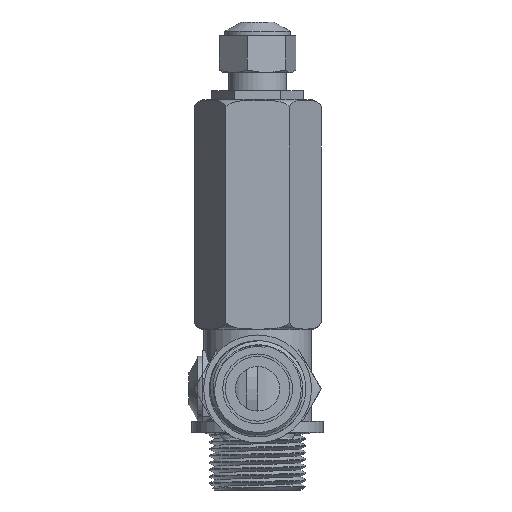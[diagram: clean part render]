
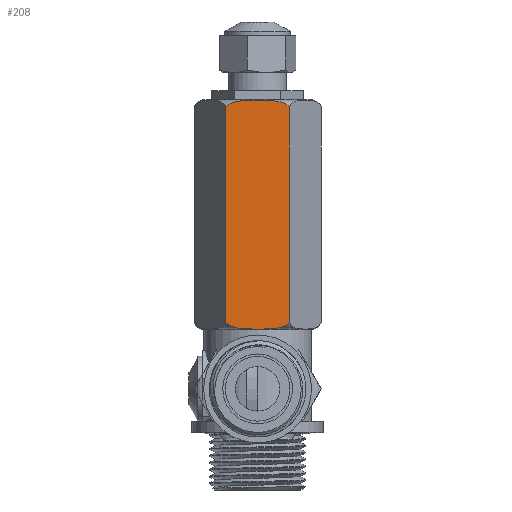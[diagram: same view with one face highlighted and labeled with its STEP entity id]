
A CAD part, left-side view. The second image highlights one B-rep face of the part: STEP entity #208.
In plain terms, the highlighted planar face has unit normal (-1, 0, 0) as drawn and (0, 0, -1) by its records, which use the part's own axes.
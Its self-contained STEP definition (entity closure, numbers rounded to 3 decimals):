
#208 = ADVANCED_FACE( '', ( #469 ), #470, .T. );
#469 = FACE_OUTER_BOUND( '', #1000, .T. );
#470 = PLANE( '', #1001 );
#1000 = EDGE_LOOP( '', ( #2353, #2354, #2355, #2356 ) );
#1001 = AXIS2_PLACEMENT_3D( '', #2357, #2358, #2359 );
#2353 = ORIENTED_EDGE( '', *, *, #2841, .F. );
#2354 = ORIENTED_EDGE( '', *, *, #2819, .T. );
#2355 = ORIENTED_EDGE( '', *, *, #2842, .T. );
#2356 = ORIENTED_EDGE( '', *, *, #2843, .F. );
#2357 = CARTESIAN_POINT( '', ( 42.5, 6.928, -12. ) );
#2358 = DIRECTION( '', ( 0., 0., -1. ) );
#2359 = DIRECTION( '', ( 0., 1., 0. ) );
#2819 = EDGE_CURVE( '', #3125, #3127, #3129, .T. );
#2841 = EDGE_CURVE( '', #3125, #3162, #3163, .T. );
#2842 = EDGE_CURVE( '', #3127, #3164, #3165, .T. );
#2843 = EDGE_CURVE( '', #3162, #3164, #3166, .T. );
#3125 = VERTEX_POINT( '', #4236 );
#3127 = VERTEX_POINT( '', #4265 );
#3129 = LINE( '', #4292, #4293 );
#3162 = VERTEX_POINT( '', #4453 );
#3163 = B_SPLINE_CURVE_WITH_KNOTS( '', 3, ( #4454, #4455, #4456, #4457, #4458, #4459, #4460, #4461, #4462, #4463, #4464, #4465, #4466, #4467, #4468, #4469, #4470, #4471, #4472, #4473, #4474, #4475, #4476, #4477, #4478, #4479, #4480, #4481, #4482, #4483 ), .UNSPECIFIED., .F., .F., ( 4, 2, 2, 2, 2, 2, 2, 2, 2, 2, 2, 2, 2, 2, 4 ), ( 0.026, 0.026, 0.027, 0.028, 0.029, 0.029, 0.031, 0.033, 0.035, 0.037, 0.038, 0.038, 0.039, 0.04, 0.04 ), .UNSPECIFIED. );
#3164 = VERTEX_POINT( '', #4484 );
#3165 = B_SPLINE_CURVE_WITH_KNOTS( '', 3, ( #4485, #4486, #4487, #4488, #4489, #4490, #4491, #4492, #4493, #4494, #4495, #4496, #4497, #4498, #4499, #4500, #4501, #4502, #4503, #4504, #4505, #4506, #4507, #4508, #4509, #4510, #4511, #4512 ), .UNSPECIFIED., .F., .F., ( 4, 2, 2, 2, 2, 2, 2, 2, 2, 2, 2, 2, 2, 4 ), ( 0.026, 0.027, 0.028, 0.029, 0.029, 0.031, 0.032, 0.033, 0.035, 0.037, 0.038, 0.038, 0.039, 0.04 ), .UNSPECIFIED. );
#3166 = LINE( '', #4513, #4514 );
#4236 = CARTESIAN_POINT( '', ( 41., -6.928, -12. ) );
#4265 = CARTESIAN_POINT( '', ( -6., -6.928, -12. ) );
#4292 = CARTESIAN_POINT( '', ( 42.5, -6.928, -12. ) );
#4293 = VECTOR( '', #4977, 1000. );
#4453 = CARTESIAN_POINT( '', ( 41., 6.928, -12. ) );
#4454 = CARTESIAN_POINT( '', ( 41., -6.928, -12. ) );
#4455 = CARTESIAN_POINT( '', ( 41.117, -6.829, -12. ) );
#4456 = CARTESIAN_POINT( '', ( 41.223, -6.718, -12. ) );
#4457 = CARTESIAN_POINT( '', ( 41.412, -6.481, -12. ) );
#4458 = CARTESIAN_POINT( '', ( 41.497, -6.354, -12. ) );
#4459 = CARTESIAN_POINT( '', ( 41.729, -5.957, -12. ) );
#4460 = CARTESIAN_POINT( '', ( 41.848, -5.679, -12. ) );
#4461 = CARTESIAN_POINT( '', ( 42.044, -5.106, -12. ) );
#4462 = CARTESIAN_POINT( '', ( 42.121, -4.81, -12. ) );
#4463 = CARTESIAN_POINT( '', ( 42.244, -4.216, -12. ) );
#4464 = CARTESIAN_POINT( '', ( 42.29, -3.918, -12. ) );
#4465 = CARTESIAN_POINT( '', ( 42.401, -3.021, -12. ) );
#4466 = CARTESIAN_POINT( '', ( 42.437, -2.42, -12. ) );
#4467 = CARTESIAN_POINT( '', ( 42.48, -1.216, -12. ) );
#4468 = CARTESIAN_POINT( '', ( 42.487, -0.613, -12. ) );
#4469 = CARTESIAN_POINT( '', ( 42.487, 0.594, -12. ) );
#4470 = CARTESIAN_POINT( '', ( 42.48, 1.2, -12. ) );
#4471 = CARTESIAN_POINT( '', ( 42.437, 2.407, -12. ) );
#4472 = CARTESIAN_POINT( '', ( 42.402, 3.009, -12. ) );
#4473 = CARTESIAN_POINT( '', ( 42.292, 3.907, -12. ) );
#4474 = CARTESIAN_POINT( '', ( 42.246, 4.205, -12. ) );
#4475 = CARTESIAN_POINT( '', ( 42.123, 4.8, -12. ) );
#4476 = CARTESIAN_POINT( '', ( 42.047, 5.098, -12. ) );
#4477 = CARTESIAN_POINT( '', ( 41.849, 5.676, -12. ) );
#4478 = CARTESIAN_POINT( '', ( 41.728, 5.96, -12. ) );
#4479 = CARTESIAN_POINT( '', ( 41.497, 6.354, -12. ) );
#4480 = CARTESIAN_POINT( '', ( 41.413, 6.48, -12. ) );
#4481 = CARTESIAN_POINT( '', ( 41.223, 6.717, -12. ) );
#4482 = CARTESIAN_POINT( '', ( 41.118, 6.829, -12. ) );
#4483 = CARTESIAN_POINT( '', ( 41., 6.928, -12. ) );
#4484 = CARTESIAN_POINT( '', ( -6., 6.928, -12. ) );
#4485 = CARTESIAN_POINT( '', ( -6., -6.928, -12. ) );
#4486 = CARTESIAN_POINT( '', ( -6.234, -6.725, -12. ) );
#4487 = CARTESIAN_POINT( '', ( -6.417, -6.479, -12. ) );
#4488 = CARTESIAN_POINT( '', ( -6.722, -5.946, -12. ) );
#4489 = CARTESIAN_POINT( '', ( -6.84, -5.666, -12. ) );
#4490 = CARTESIAN_POINT( '', ( -7.034, -5.089, -12. ) );
#4491 = CARTESIAN_POINT( '', ( -7.11, -4.791, -12. ) );
#4492 = CARTESIAN_POINT( '', ( -7.23, -4.195, -12. ) );
#4493 = CARTESIAN_POINT( '', ( -7.276, -3.895, -12. ) );
#4494 = CARTESIAN_POINT( '', ( -7.384, -2.995, -12. ) );
#4495 = CARTESIAN_POINT( '', ( -7.419, -2.392, -12. ) );
#4496 = CARTESIAN_POINT( '', ( -7.45, -1.486, -12. ) );
#4497 = CARTESIAN_POINT( '', ( -7.457, -1.184, -12. ) );
#4498 = CARTESIAN_POINT( '', ( -7.465, -0.579, -12. ) );
#4499 = CARTESIAN_POINT( '', ( -7.467, -0.274, -12. ) );
#4500 = CARTESIAN_POINT( '', ( -7.467, 0.628, -12. ) );
#4501 = CARTESIAN_POINT( '', ( -7.46, 1.229, -12. ) );
#4502 = CARTESIAN_POINT( '', ( -7.417, 2.428, -12. ) );
#4503 = CARTESIAN_POINT( '', ( -7.381, 3.026, -12. ) );
#4504 = CARTESIAN_POINT( '', ( -7.272, 3.919, -12. ) );
#4505 = CARTESIAN_POINT( '', ( -7.227, 4.216, -12. ) );
#4506 = CARTESIAN_POINT( '', ( -7.106, 4.807, -12. ) );
#4507 = CARTESIAN_POINT( '', ( -7.03, 5.103, -12. ) );
#4508 = CARTESIAN_POINT( '', ( -6.835, 5.678, -12. ) );
#4509 = CARTESIAN_POINT( '', ( -6.715, 5.961, -12. ) );
#4510 = CARTESIAN_POINT( '', ( -6.413, 6.485, -12. ) );
#4511 = CARTESIAN_POINT( '', ( -6.232, 6.727, -12. ) );
#4512 = CARTESIAN_POINT( '', ( -6., 6.928, -12. ) );
#4513 = CARTESIAN_POINT( '', ( 42.5, 6.928, -12. ) );
#4514 = VECTOR( '', #4997, 1000. );
#4977 = DIRECTION( '', ( -1., 0., 0. ) );
#4997 = DIRECTION( '', ( -1., 0., 0. ) );
